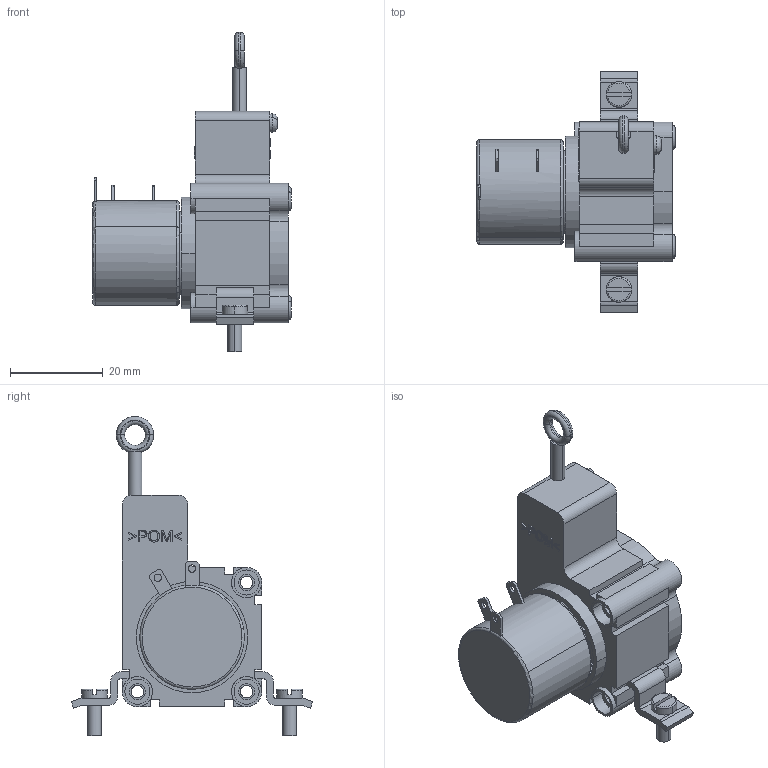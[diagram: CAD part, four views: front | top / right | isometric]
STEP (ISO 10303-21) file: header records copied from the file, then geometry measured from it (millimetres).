
FILE_DESCRIPTION((''),'2;1');
FILE_NAME('','2007-03-15T',(''),(''),'PRO/ENGINEER BY PARAMETRIC TECHNOLOGY CORPORATION, 2003250','PRO/ENGINEER BY PARAMETRIC TECHNOLOGY CORPORATION, 2003250','');
FILE_SCHEMA(('CONFIG_CONTROL_DESIGN'));
Length unit declared in the file: millimetre
Bounding box: 42.65 x 52 x 68.7 mm (x, y, z)
Volume: 18017.3 mm3; surface area: 14257.1 mm2
Topology: 1 solids, 7 shells, 691 faces, 1900 edges, 1273 vertices
Faces by surface type: plane 352, cylinder 185, extrusion 124, torus 24, cone 4, bspline 2
Entity records: 23531 total; most frequent: CARTESIAN_POINT 5861, ORIENTED_EDGE 3800, DIRECTION 3427, EDGE_CURVE 1900, VERTEX_POINT 1273, AXIS2_PLACEMENT_3D 1145, VECTOR 1137, LINE 1013
